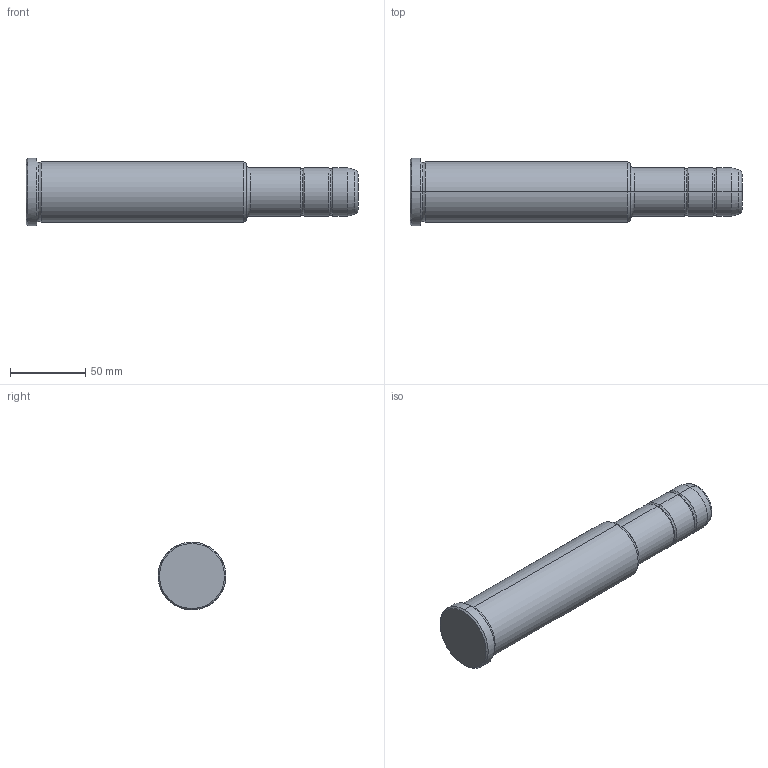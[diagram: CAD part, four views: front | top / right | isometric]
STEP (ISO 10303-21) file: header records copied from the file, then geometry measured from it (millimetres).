
FILE_DESCRIPTION(('CATIA V5 STEP Exchange'),'2;1');
FILE_NAME('C:\Users\Utente\Desktop\IO LAVORO\3D X SITO CF\X SITO\PLASTICA\351\351-32X146X220.stp','2021-09-15T12:20:07+00:00',('none'),('none'),'CATIA Version 5 Release 20 GA (IN-10)','CATIA V5 STEP AP203','none');
FILE_SCHEMA(('CONFIG_CONTROL_DESIGN'));
Length unit declared in the file: millimetre
Products named in the file (1): 351-32X146X220
Bounding box: 220 x 45 x 45 mm (x, y, z)
Volume: 244114.6 mm3; surface area: 28647.7 mm2
Topology: 1 solids, 1 shells, 36 faces, 102 edges, 70 vertices
Faces by surface type: torus 16, cylinder 10, cone 6, plane 4
Entity records: 1292 total; most frequent: CARTESIAN_POINT 321, ORIENTED_EDGE 204, DIRECTION 166, AXIS2_PLACEMENT_3D 115, EDGE_CURVE 102, CIRCLE 78, VERTEX_POINT 70, EDGE_LOOP 38
